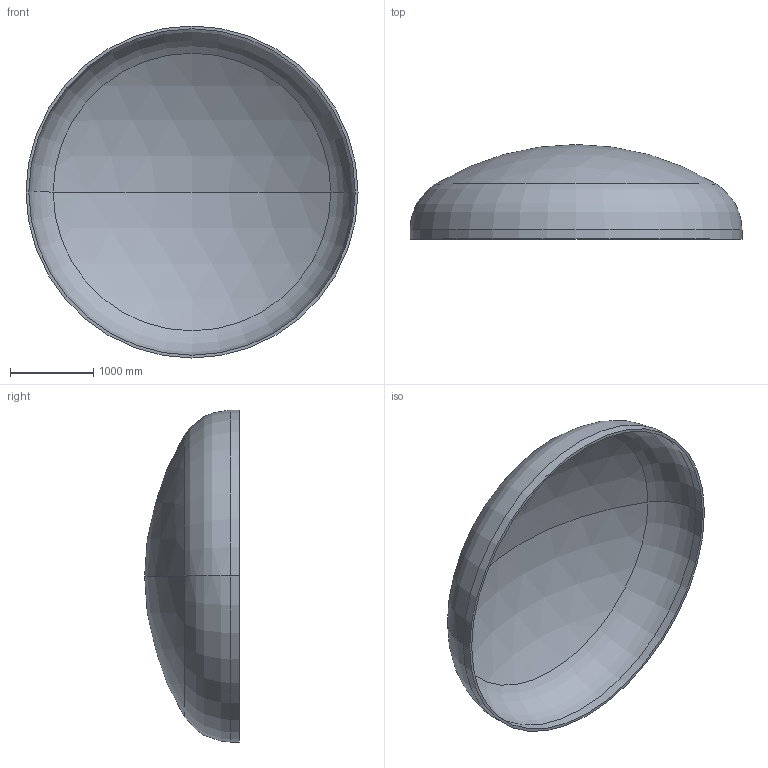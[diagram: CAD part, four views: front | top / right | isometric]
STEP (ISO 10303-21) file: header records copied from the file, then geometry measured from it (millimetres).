
FILE_DESCRIPTION (( 'STEP AP203' ), '1' );
FILE_NAME ('DIN 28013 Korbbogenform_-_Boden DIN 28013 - 4000 x 110 - I - s=34.step', '2016-07-01T22:18:04', ( '' ), ( '' ), 'SwSTEP 2.0', 'SolidWorks 2013', '' );
FILE_SCHEMA (( 'CONFIG_CONTROL_DESIGN' ));
Length unit declared in the file: millimetre
Products named in the file (1): DIN 28013 Korbbogenform_-_Boden DIN 28013 - 4000 x 110 - I - s=34
Bounding box: 4000 x 1140.13 x 4000 mm (x, y, z)
Volume: 631545102.2 mm3; surface area: 37575744 mm2
Topology: 1 solids, 1 shells, 13 faces, 24 edges, 14 vertices
Faces by surface type: torus 4, cylinder 4, sphere 4, plane 1
Entity records: 407 total; most frequent: DIRECTION 72, CARTESIAN_POINT 52, ORIENTED_EDGE 48, AXIS2_PLACEMENT_3D 34, EDGE_CURVE 24, CIRCLE 20, VERTEX_POINT 14, EDGE_LOOP 14
